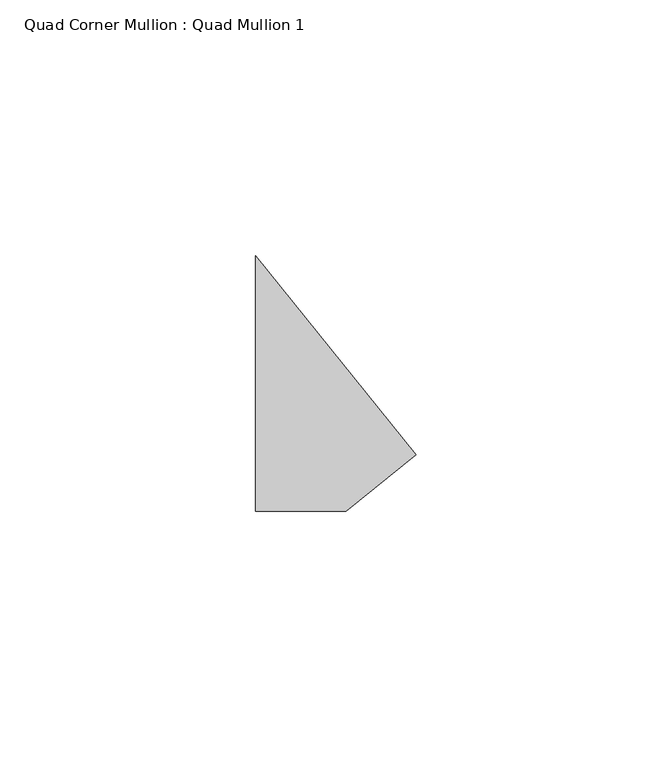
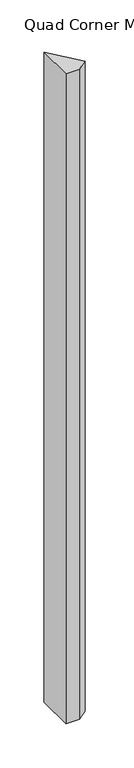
"""IFC4 building model written with IfcOpenShell, lengths in millimetres: member geometry, Quad Corner Mullion : Quad Mullion 1."""

from ifc_helpers import new_model, si_unit, frame, origin, place, context, project, spatial, polyline, outline, extrude, source, transform, mapped, element, save


def quad_corner_mullion_quad_mullion_1_8e3f4a4c(model_context):
    return source(origin(), model_context, "Body", "SweptSolid", [
        extrude(outline(polyline([(22.5756121, -13.9047283), (8.8317456, -25.0), (-8.8317456, -25.0), (-8.8317456, 25.0), (22.5756121, -13.9047283)])), frame((0.0, 0.0, -900.0), z_axis=(0.0, 0.0, 1.0), x_axis=(1.0, 0.0, 0.0)), (0.0, 0.0, 1.0), 900.0),
    ])


if __name__ == "__main__":
    model = new_model("IFC4")
    model_context = context("Model", 3, world=origin())
    ifc_project = project(units=[si_unit("LENGTHUNIT", "METRE", prefix="MILLI")], contexts=[model_context])
    site = spatial("IfcSite", under=ifc_project)
    building = spatial("IfcBuilding", under=site)
    placement = place(None, origin())
    quad_corner_mullion_quad_mullion_1_shape = quad_corner_mullion_quad_mullion_1_8e3f4a4c(model_context)
    element("IfcMember", 1, ObjectType="Quad Corner Mullion : Quad Mullion 1", at=placement, inside=building, context=model_context, shape_type="MappedRepresentation", body=[
        mapped(quad_corner_mullion_quad_mullion_1_shape, transform((0.0, 0.0, 0.0), x_axis=(1.0, 0.0, 0.0), y_axis=(0.0, 1.0, 0.0), z_axis=(0.0, 0.0, 1.0))),
    ])
    save(model, "model.ifc")
